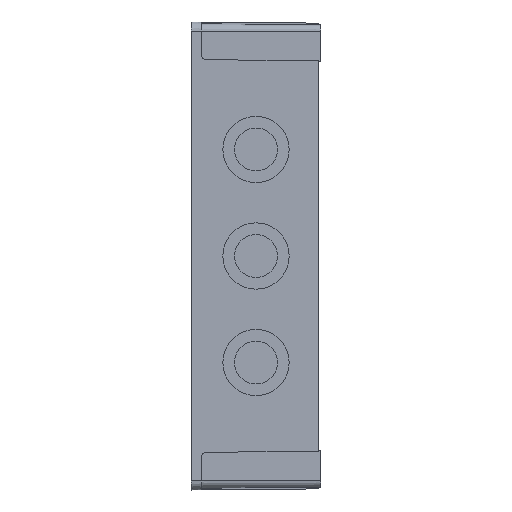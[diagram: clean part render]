
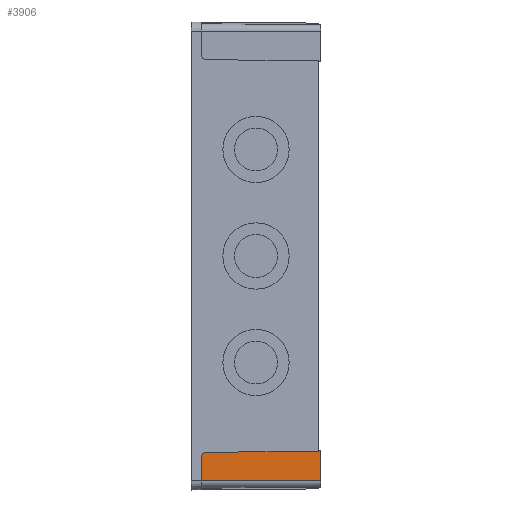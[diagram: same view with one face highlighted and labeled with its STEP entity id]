
A CAD part, left-side view. The second image highlights one B-rep face of the part: STEP entity #3906.
In plain terms, the highlighted planar face has unit normal (-1, -0.009, 0).
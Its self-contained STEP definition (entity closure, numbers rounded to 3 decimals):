
#3648 = VERTEX_POINT ( 'NONE', #8002 ) ;
#3650 = EDGE_CURVE ( 'NONE', #3651, #3648, #8001, .T. ) ;
#3651 = VERTEX_POINT ( 'NONE', #7997 ) ;
#3905 = EDGE_CURVE ( 'NONE', #3986, #3928, #8456, .T. ) ;
#3906 = ADVANCED_FACE ( 'NONE', ( #8452 ), #8451, .F. ) ;
#3907 = EDGE_LOOP ( 'NONE', ( #3908, #3911, #3914, #3972, #3973, #3976, #3978 ) ) ;
#3908 = ORIENTED_EDGE ( 'NONE', *, *, #3909, .T. ) ;
#3909 = EDGE_CURVE ( 'NONE', #3648, #3910, #8446, .T. ) ;
#3910 = VERTEX_POINT ( 'NONE', #8442 ) ;
#3911 = ORIENTED_EDGE ( 'NONE', *, *, #3912, .T. ) ;
#3912 = EDGE_CURVE ( 'NONE', #3910, #3913, #8439, .T. ) ;
#3913 = VERTEX_POINT ( 'NONE', #8441 ) ;
#3914 = ORIENTED_EDGE ( 'NONE', *, *, #3915, .T. ) ;
#3915 = EDGE_CURVE ( 'NONE', #3913, #3928, #8440, .T. ) ;
#3928 = VERTEX_POINT ( 'NONE', #8462 ) ;
#3972 = ORIENTED_EDGE ( 'NONE', *, *, #3905, .F. ) ;
#3973 = ORIENTED_EDGE ( 'NONE', *, *, #3974, .F. ) ;
#3974 = EDGE_CURVE ( 'NONE', #3975, #3986, #8517, .T. ) ;
#3975 = VERTEX_POINT ( 'NONE', #8576 ) ;
#3976 = ORIENTED_EDGE ( 'NONE', *, *, #3977, .T. ) ;
#3977 = EDGE_CURVE ( 'NONE', #3975, #3651, #8575, .T. ) ;
#3978 = ORIENTED_EDGE ( 'NONE', *, *, #3650, .T. ) ;
#3986 = VERTEX_POINT ( 'NONE', #8556 ) ;
#7997 = CARTESIAN_POINT ( 'NONE',  ( -88.957, -49., -74.957 ) ) ;
#7998 = DIRECTION ( 'NONE',  ( 0., 0., -1. ) ) ;
#7999 = VECTOR ( 'NONE', #7998, 1000. ) ;
#8000 = CARTESIAN_POINT ( 'NONE',  ( -88.957, -49., -74.957 ) ) ;
#8001 = LINE ( 'NONE', #8000, #7999 ) ;
#8002 = CARTESIAN_POINT ( 'NONE',  ( -88.957, -49., -75.157 ) ) ;
#8435 = CARTESIAN_POINT ( 'NONE',  ( -89.35, -4., -77.533 ) ) ;
#8436 = CARTESIAN_POINT ( 'NONE',  ( -89.35, -4., -76.369 ) ) ;
#8437 = CARTESIAN_POINT ( 'NONE',  ( -89.343, -4.819, -75.543 ) ) ;
#8438 = CARTESIAN_POINT ( 'NONE',  ( -89.333, -5.983, -75.533 ) ) ;
#8439 =( BOUNDED_CURVE ( )  B_SPLINE_CURVE ( 3, ( #8438, #8437, #8436, #8435 ),
 .UNSPECIFIED., .F., .T. ) 
 B_SPLINE_CURVE_WITH_KNOTS ( ( 4, 4 ),
 ( 1.58, 3.142 ),
 .UNSPECIFIED. ) 
 CURVE ( )  GEOMETRIC_REPRESENTATION_ITEM ( )  RATIONAL_B_SPLINE_CURVE ( ( 1., 0.807, 0.807, 1. ) ) 
 REPRESENTATION_ITEM ( '' )  );
#8440 = LINE ( 'NONE', #8490, #8489 ) ;
#8441 = CARTESIAN_POINT ( 'NONE',  ( -89.35, -4., -77.533 ) ) ;
#8442 = CARTESIAN_POINT ( 'NONE',  ( -89.333, -5.983, -75.533 ) ) ;
#8443 = DIRECTION ( 'NONE',  ( -0.009, 1., -0.009 ) ) ;
#8444 = VECTOR ( 'NONE', #8443, 1000. ) ;
#8445 = CARTESIAN_POINT ( 'NONE',  ( -89.35, -4., -75.55 ) ) ;
#8446 = LINE ( 'NONE', #8445, #8444 ) ;
#8447 = DIRECTION ( 'NONE',  ( -0.009, 1., 0. ) ) ;
#8448 = DIRECTION ( 'NONE',  ( 1., 0.009, 0. ) ) ;
#8449 = CARTESIAN_POINT ( 'NONE',  ( -89.35, -4., -86.55 ) ) ;
#8450 = AXIS2_PLACEMENT_3D ( 'NONE', #8449, #8448, #8447 ) ;
#8451 = PLANE ( 'NONE',  #8450 ) ;
#8452 = FACE_OUTER_BOUND ( 'NONE', #3907, .T. ) ;
#8453 = DIRECTION ( 'NONE',  ( -0.009, 1., 0. ) ) ;
#8454 = VECTOR ( 'NONE', #8453, 1000. ) ;
#8455 = CARTESIAN_POINT ( 'NONE',  ( -89.35, -4., -86.55 ) ) ;
#8456 = LINE ( 'NONE', #8455, #8454 ) ;
#8462 = CARTESIAN_POINT ( 'NONE',  ( -89.35, -4., -86.55 ) ) ;
#8488 = DIRECTION ( 'NONE',  ( 0., 0., -1. ) ) ;
#8489 = VECTOR ( 'NONE', #8488, 1000. ) ;
#8490 = CARTESIAN_POINT ( 'NONE',  ( -89.35, -4., -86.55 ) ) ;
#8516 = CARTESIAN_POINT ( 'NONE',  ( -88.949, -50., -74.957 ) ) ;
#8517 = LINE ( 'NONE', #8516, #8578 ) ;
#8556 = CARTESIAN_POINT ( 'NONE',  ( -88.949, -50., -86.55 ) ) ;
#8572 = DIRECTION ( 'NONE',  ( -0.009, 1., 0.009 ) ) ;
#8573 = VECTOR ( 'NONE', #8572, 1000. ) ;
#8574 = CARTESIAN_POINT ( 'NONE',  ( -88.957, -49., -74.957 ) ) ;
#8575 = LINE ( 'NONE', #8574, #8573 ) ;
#8576 = CARTESIAN_POINT ( 'NONE',  ( -88.949, -50., -74.966 ) ) ;
#8577 = DIRECTION ( 'NONE',  ( 0., 0., -1. ) ) ;
#8578 = VECTOR ( 'NONE', #8577, 1000. ) ;
